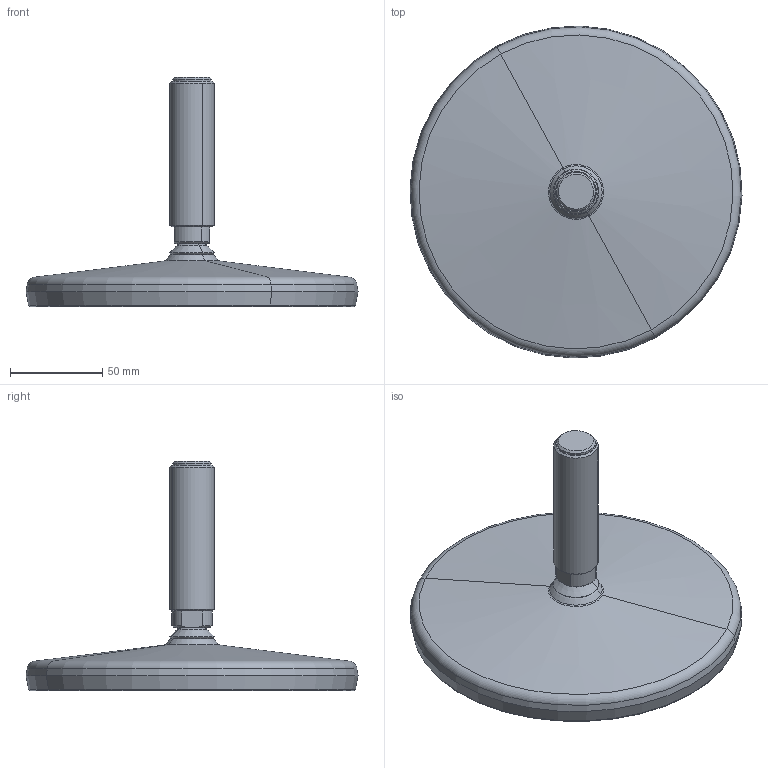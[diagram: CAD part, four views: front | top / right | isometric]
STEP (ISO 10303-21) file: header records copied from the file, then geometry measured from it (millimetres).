
FILE_DESCRIPTION(('CATIA V5 STEP Exchange'),'2;1');
FILE_NAME('X:\CODICI MOVEX\3D per clienti\Stephan Schelonka\05-04-2016\P97902_01.stp','2016-04-05T14:25:43+00:00',('none'),('none'),'Version 5-6 Release 2012','CATIA V5 STEP AP203','none');
FILE_SCHEMA(('CONFIG_CONTROL_DESIGN'));
Length unit declared in the file: millimetre
Products named in the file (1): P97902_01
Assembly tree (3 placements, depth 2):
  P97902_01
    #57
    #1186
    #2281
Bounding box: 179.95 x 179.95 x 124.15 mm (x, y, z)
Volume: 520362.8 mm3; surface area: 124110.4 mm2
Topology: 4 solids, 4 shells, 107 faces, 214 edges, 126 vertices
Faces by surface type: cone 42, plane 23, cylinder 18, torus 18, revolution 4, sphere 2
Entity records: 2605 total; most frequent: CARTESIAN_POINT 467, ORIENTED_EDGE 428, DIRECTION 352, EDGE_CURVE 214, AXIS2_PLACEMENT_3D 213, CIRCLE 142, VERTEX_POINT 126, EDGE_LOOP 122
